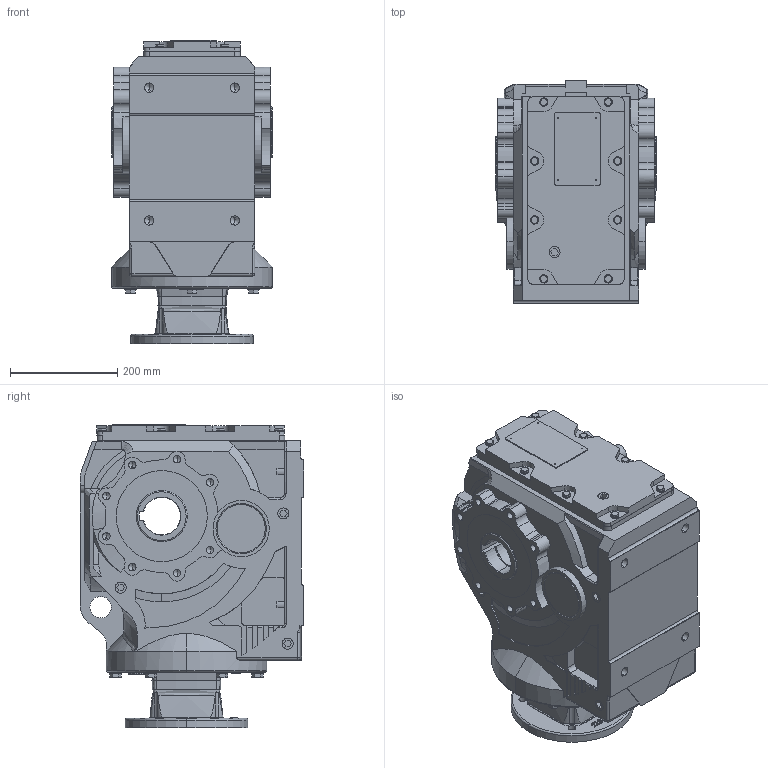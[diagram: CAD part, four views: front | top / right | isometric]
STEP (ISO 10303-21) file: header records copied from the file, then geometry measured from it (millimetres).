
FILE_DESCRIPTION (( 'STEP AP203' ), '1' );
FILE_NAME ('KAN97-213-5TC.STEP', '2022-04-11T02:52:37', ( 'Microsoft' ), ( 'Microsoft' ), 'SwSTEP 2.0', 'SolidWorks 2012', '' );
FILE_SCHEMA (( 'CONFIG_CONTROL_DESIGN' ));
Length unit declared in the file: millimetre
Products named in the file (1): KAN97-213-5TC
Bounding box: 300 x 417.1 x 565.5 mm (x, y, z)
Volume: 41838857.6 mm3; surface area: 1140039.6 mm2
Topology: 1 solids, 37 shells, 1531 faces, 3935 edges, 2495 vertices
Faces by surface type: plane 646, cylinder 524, cone 205, bspline 121, torus 32, sphere 3
Entity records: 55520 total; most frequent: CARTESIAN_POINT 18975, ORIENTED_EDGE 7692, DIRECTION 7398, EDGE_CURVE 3846, AXIS2_PLACEMENT_3D 2651, VERTEX_POINT 2495, VECTOR 2096, LINE 2096
